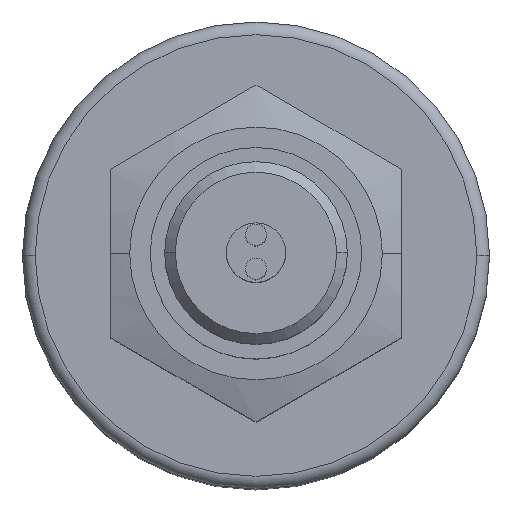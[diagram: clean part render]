
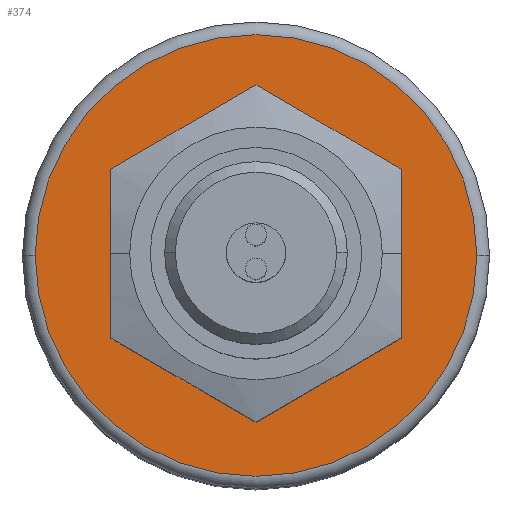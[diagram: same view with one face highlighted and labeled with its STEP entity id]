
A CAD part, top view. The second image highlights one B-rep face of the part: STEP entity #374.
In plain terms, the highlighted planar face has unit normal (0, 0, 1).
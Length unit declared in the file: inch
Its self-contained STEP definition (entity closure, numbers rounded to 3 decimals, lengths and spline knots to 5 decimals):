
#166 = EDGE_CURVE ( 'NONE', #168, #173, #1024, .T. ) ;
#168 = VERTEX_POINT ( 'NONE', #1018 ) ;
#173 = VERTEX_POINT ( 'NONE', #1011 ) ;
#362 = VERTEX_POINT ( 'NONE', #1578 ) ;
#363 = VERTEX_POINT ( 'NONE', #1577 ) ;
#371 = EDGE_CURVE ( 'NONE', #363, #362, #1603, .T. ) ;
#374 = ADVANCED_FACE ( 'NONE', ( #1608, #1624 ), #1609, .F. ) ;
#375 = EDGE_LOOP ( 'NONE', ( #376, #378 ) ) ;
#376 = ORIENTED_EDGE ( 'NONE', *, *, #377, .T. ) ;
#377 = EDGE_CURVE ( 'NONE', #173, #168, #1612, .T. ) ;
#378 = ORIENTED_EDGE ( 'NONE', *, *, #166, .T. ) ;
#379 = EDGE_LOOP ( 'NONE', ( #471, #468 ) ) ;
#416 = EDGE_CURVE ( 'NONE', #362, #363, #1656, .T. ) ;
#468 = ORIENTED_EDGE ( 'NONE', *, *, #371, .F. ) ;
#471 = ORIENTED_EDGE ( 'NONE', *, *, #416, .F. ) ;
#1011 = CARTESIAN_POINT ( 'NONE',  ( -0.52, 0., -3.53 ) ) ;
#1018 = CARTESIAN_POINT ( 'NONE',  ( 0.52, 0., -3.53 ) ) ;
#1020 = DIRECTION ( 'NONE',  ( -1., 0., 0. ) ) ;
#1021 = DIRECTION ( 'NONE',  ( 0., 0., 1. ) ) ;
#1022 = CARTESIAN_POINT ( 'NONE',  ( 0., 0., -3.53 ) ) ;
#1023 = AXIS2_PLACEMENT_3D ( 'NONE', #1022, #1021, #1020 ) ;
#1024 = CIRCLE ( 'NONE', #1023, 0.52 ) ;
#1577 = CARTESIAN_POINT ( 'NONE',  ( -0.1685, 0., -3.53 ) ) ;
#1578 = CARTESIAN_POINT ( 'NONE',  ( 0.1685, 0., -3.53 ) ) ;
#1599 = DIRECTION ( 'NONE',  ( 1., 0., 0. ) ) ;
#1600 = DIRECTION ( 'NONE',  ( 0., 0., 1. ) ) ;
#1601 = CARTESIAN_POINT ( 'NONE',  ( 0., 0., -3.53 ) ) ;
#1602 = AXIS2_PLACEMENT_3D ( 'NONE', #1601, #1600, #1599 ) ;
#1603 = CIRCLE ( 'NONE', #1602, 0.1685 ) ;
#1608 = FACE_OUTER_BOUND ( 'NONE', #375, .T. ) ;
#1609 = PLANE ( 'NONE',  #1625 ) ;
#1610 = DIRECTION ( 'NONE',  ( -1., 0., 0. ) ) ;
#1611 = AXIS2_PLACEMENT_3D ( 'NONE', #1635, #1634, #1633 ) ;
#1612 = CIRCLE ( 'NONE', #1611, 0.52 ) ;
#1624 = FACE_BOUND ( 'NONE', #379, .T. ) ;
#1625 = AXIS2_PLACEMENT_3D ( 'NONE', #1626, #1636, #1610 ) ;
#1626 = CARTESIAN_POINT ( 'NONE',  ( 0., 0.1685, -3.53 ) ) ;
#1633 = DIRECTION ( 'NONE',  ( -1., 0., 0. ) ) ;
#1634 = DIRECTION ( 'NONE',  ( 0., 0., 1. ) ) ;
#1635 = CARTESIAN_POINT ( 'NONE',  ( 0., 0., -3.53 ) ) ;
#1636 = DIRECTION ( 'NONE',  ( 0., 0., -1. ) ) ;
#1652 = DIRECTION ( 'NONE',  ( 1., 0., 0. ) ) ;
#1653 = DIRECTION ( 'NONE',  ( 0., 0., 1. ) ) ;
#1654 = CARTESIAN_POINT ( 'NONE',  ( 0., 0., -3.53 ) ) ;
#1655 = AXIS2_PLACEMENT_3D ( 'NONE', #1654, #1653, #1652 ) ;
#1656 = CIRCLE ( 'NONE', #1655, 0.1685 ) ;
